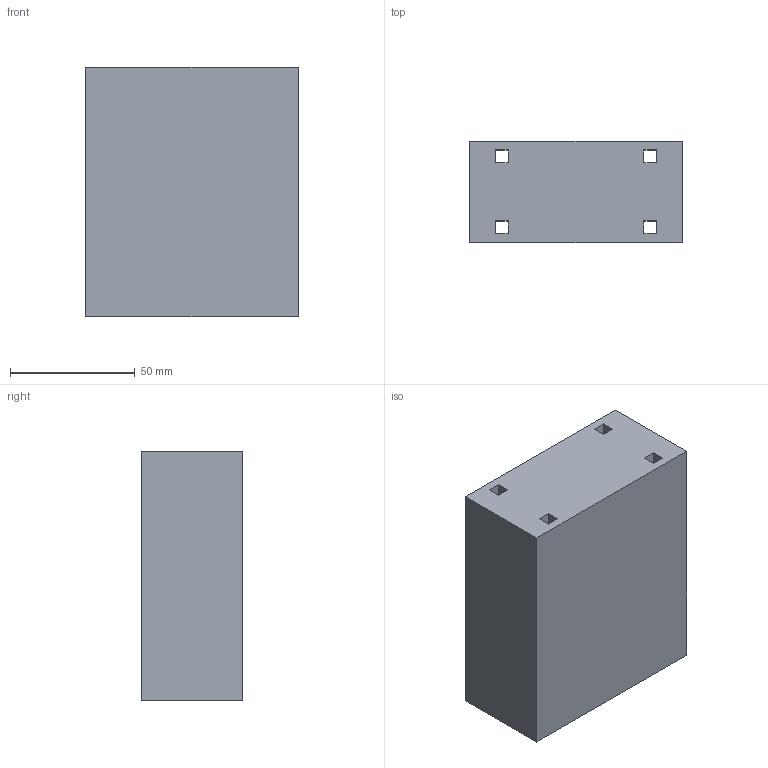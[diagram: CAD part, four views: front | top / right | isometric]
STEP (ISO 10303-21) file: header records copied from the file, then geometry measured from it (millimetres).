
FILE_DESCRIPTION(('Mechanical CAD reference from nasji.com'),'2;1');
FILE_NAME('NASJI.step','',(''),(''),'','NASJI distribution','');
FILE_SCHEMA(('AUTOMOTIVE_DESIGN { 1 0 10303 214 1 1 1 1 }'));
Length unit declared in the file: millimetre
Products named in the file (1): Open CASCADE STEP translator 7.8 14
Bounding box: 85 x 40.5 x 100 mm (x, y, z)
Volume: 333434 mm3; surface area: 40088.7 mm2
Topology: 1 solids, 1 shells, 22 faces, 60 edges, 40 vertices
Faces by surface type: plane 22
Entity records: 1442 total; most frequent: CARTESIAN_POINT 291, DIRECTION 178, LINE 132, VECTOR 132, ORIENTED_EDGE 120, PCURVE 120, DEFINITIONAL_REPRESENTATION 120, EDGE_CURVE 60
